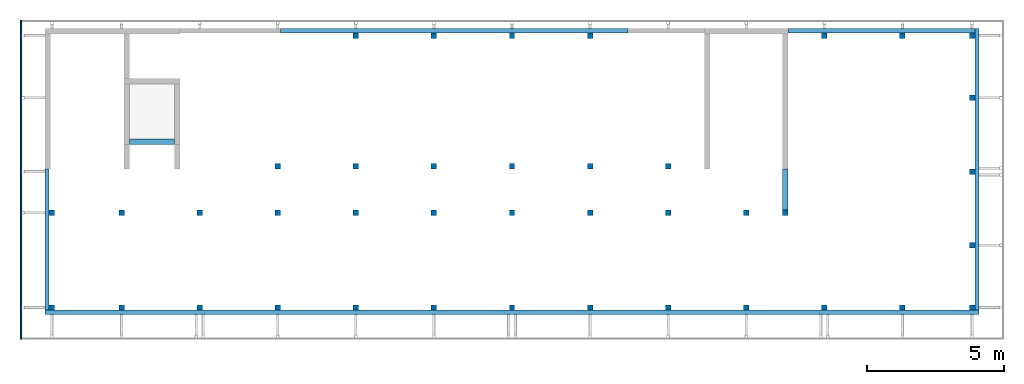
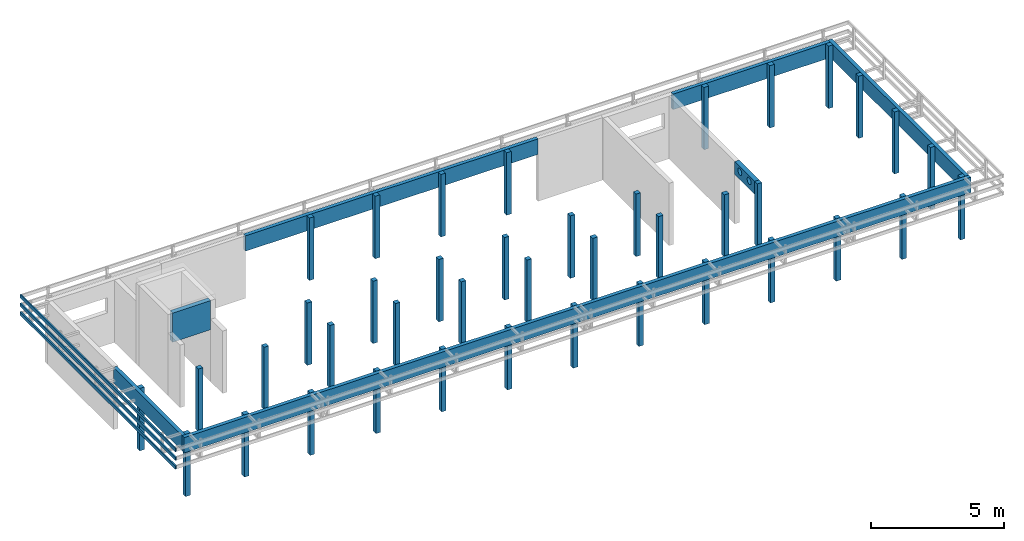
# One storey, part 1 of 42: 40 columns, 7 beams, 3 members, 2 openings.
"""IFC4 building model written with IfcOpenShell, lengths in metres."""

import ifcopenshell
import ifcopenshell.guid

model = None  # the IFC model being written
_history = None  # IfcOwnerHistory: only IFC2X3 demands one
_inside = {}  # id of a spatial element -> (the spatial element, [elements in it])
_under = {}  # id of a project, library or spatial element -> (it, [spatial elements below it])
_declared = {}  # id of a project -> (the project, [libraries it declares])
_typed = {}  # id of a type object -> (the type object, [elements of that type])
_made_of = {}  # id of a material, layer set ... -> (it, [elements and type objects made of it])


def new_model(schema):
    """Start an empty IFC model of exactly this schema.

    Asked for "IFC4X3", IfcOpenShell would pick the latest addendum, in which some entities
    have other attributes; the version numbers below select the first issue.
    IFC2X3 requires an IfcOwnerHistory on every rooted entity: one is made here for all.
    """
    global model, _history
    if schema == "IFC4X3":
        model = ifcopenshell.file(schema_version=(4, 3, 0, 0))
    else:
        model = ifcopenshell.file(schema=schema)
    _inside.clear()
    _under.clear()
    _declared.clear()
    _typed.clear()
    _made_of.clear()
    _history = None
    if model.schema == "IFC2X3":
        org = make("IfcOrganization", Name="unknown")
        user = make(
            "IfcPersonAndOrganization",
            ThePerson=make("IfcPerson", FamilyName="unknown"),
            TheOrganization=org,
        )
        app = make(
            "IfcApplication",
            ApplicationDeveloper=org,
            Version="unknown",
            ApplicationFullName="unknown",
            ApplicationIdentifier="unknown",
        )
        _history = make(
            "IfcOwnerHistory",
            OwningUser=user,
            OwningApplication=app,
            ChangeAction="ADDED",
            CreationDate=0,
        )
    return model


def make(cls, **values):
    """One entity of the class cls with the attributes given. An attribute that is None is left unset."""
    return model.create_entity(
        cls, **{name: value for name, value in values.items() if value is not None}
    )


def entity(cls, *values):
    """Any entity or typed value of the class cls, its attributes in the order of the schema. None: left unset."""
    e = model.create_entity(cls)
    for i, value in enumerate(values):
        if value is not None:
            e[i] = value
    return e


def rooted(cls, **values):
    """An entity with a GlobalId (a new one), such as an element, a storey or a relation."""
    return make(cls, GlobalId=ifcopenshell.guid.new(), OwnerHistory=_history, **values)


def si_unit(unit_type, name, prefix=None):
    """IfcSIUnit, for example si_unit("LENGTHUNIT", "METRE", prefix="MILLI")."""
    return make("IfcSIUnit", UnitType=unit_type, Prefix=prefix, Name=name)


def converted_unit(unit_type, name, factor, base, dimensions=None, offset=None):
    """IfcConversionBasedUnit, such as the inch: factor (a typed value) times the base unit."""
    return make(
        "IfcConversionBasedUnit"
        if offset is None
        else "IfcConversionBasedUnitWithOffset",
        ConversionOffset=offset,
        Dimensions=None
        if dimensions is None
        else entity("IfcDimensionalExponents", *dimensions),
        UnitType=unit_type,
        Name=name,
        ConversionFactor=make(
            "IfcMeasureWithUnit", ValueComponent=factor, UnitComponent=base
        ),
    )


def derived_unit(unit_type, elements):
    """IfcDerivedUnit: a product of units, each with its exponent."""
    return make(
        "IfcDerivedUnit",
        Elements=[
            make("IfcDerivedUnitElement", Unit=unit, Exponent=power)
            for unit, power in elements
        ],
        UnitType=unit_type,
    )


def assignment(units):
    """IfcUnitAssignment: the units of a project."""
    return None if units is None else make("IfcUnitAssignment", Units=units)


def point(xyz):
    """IfcCartesianPoint."""
    return None if xyz is None else make("IfcCartesianPoint", Coordinates=xyz)


def direction(xyz):
    """IfcDirection."""
    return None if xyz is None else make("IfcDirection", DirectionRatios=xyz)


def frame(location, z_axis=None, x_axis=None):
    """IfcAxis2Placement3D, a coordinate frame: its origin and axes. An axis left out is left unset."""
    return make(
        "IfcAxis2Placement3D",
        Location=point(location),
        Axis=direction(z_axis),
        RefDirection=direction(x_axis),
    )


def frame_2d(location, x_axis=None):
    """IfcAxis2Placement2D, a coordinate frame in the plane: its origin and x axis."""
    return make(
        "IfcAxis2Placement2D", Location=point(location), RefDirection=direction(x_axis)
    )


def origin():
    """The frame at (0, 0, 0) with its axes left unset."""
    return frame((0.0, 0.0, 0.0))


def origin_with_axes():
    """The frame at (0, 0, 0) with the z axis (0, 0, 1) and the x axis (1, 0, 0) written out."""
    return frame((0.0, 0.0, 0.0), z_axis=(0.0, 0.0, 1.0), x_axis=(1.0, 0.0, 0.0))


def place(relative_to, where):
    """IfcLocalPlacement: puts the frame where relative to a parent placement (None: the world)."""
    return make(
        "IfcLocalPlacement", PlacementRelTo=relative_to, RelativePlacement=where
    )


def context(
    kind, dimensions, precision=None, world=None, true_north=None, identifier=None
):
    """IfcGeometricRepresentationContext, for example the 3D "Model" context."""
    return make(
        "IfcGeometricRepresentationContext",
        ContextIdentifier=identifier,
        ContextType=kind,
        CoordinateSpaceDimension=dimensions,
        Precision=precision,
        WorldCoordinateSystem=world,
        TrueNorth=true_north,
    )


def subcontext(parent, identifier, kind, view, scale=None):
    """IfcGeometricRepresentationSubContext, for example "Body" below "Model"."""
    return make(
        "IfcGeometricRepresentationSubContext",
        ContextIdentifier=identifier,
        ContextType=kind,
        ParentContext=parent,
        TargetScale=scale,
        TargetView=view,
    )


def project(units=None, contexts=None):
    """IfcProject with its units and contexts."""
    return rooted(
        "IfcProject",
        Name="project",
        RepresentationContexts=contexts,
        UnitsInContext=assignment(units),
    )


def spatial(cls, under=None, at=None, **own):
    """A site, building, storey or space (cls), placed at a placement, below another one or the project."""
    s = rooted(cls, ObjectPlacement=at, **own)
    if under is not None:
        _under.setdefault(under.id(), (under, []))[1].append(s)
    return s


def polyline(points):
    """IfcPolyline through the points."""
    return make("IfcPolyline", Points=[point(p) for p in points])


def profile(cls, at=None, kind="AREA", **sizes):
    """A parametric profile (cls). Its sizes go by their IFC names, for example OverallWidth=200.0."""
    return make(cls, ProfileType=kind, Position=at, **sizes)


def rectangle(**sizes):
    """IfcRectangleProfileDef."""
    return profile("IfcRectangleProfileDef", **sizes)


def outline(outer, holes=None, kind="AREA"):
    """IfcArbitraryClosedProfileDef: a profile drawn as a closed curve; with holes, ...WithVoids."""
    if holes is None:
        return make("IfcArbitraryClosedProfileDef", ProfileType=kind, OuterCurve=outer)
    return make(
        "IfcArbitraryProfileDefWithVoids",
        ProfileType=kind,
        OuterCurve=outer,
        InnerCurves=holes,
    )


def extrude(swept, where, along, depth):
    """IfcExtrudedAreaSolid: the profile swept, set in the frame where, extruded along a direction by depth."""
    return make(
        "IfcExtrudedAreaSolid",
        SweptArea=swept,
        Position=where,
        ExtrudedDirection=direction(along),
        Depth=depth,
    )


def faces_of(points, faces, orient=None, outer=None):
    """IfcFace entities. A face is a list of loops; a loop is a list of indices into points, from 0.

    orient and outer hold one flag for each loop. By default every Orientation is true, the
    first loop of a face is its IfcFaceOuterBound and the others are IfcFaceBound.
    """
    made = []
    for i, loops in enumerate(faces):
        bounds = []
        for j, loop in enumerate(loops):
            is_outer = j == 0 if outer is None else outer[i][j]
            bounds.append(
                make(
                    "IfcFaceOuterBound" if is_outer else "IfcFaceBound",
                    Bound=make("IfcPolyLoop", Polygon=[points[k] for k in loop]),
                    Orientation=True if orient is None else orient[i][j],
                )
            )
        made.append(make("IfcFace", Bounds=bounds))
    return made


def faceted_brep(points, faces, orient=None, outer=None, voids=None):
    """IfcFacetedBrep: a solid bounded by flat faces; with voids (closed shells), ...WithVoids."""
    shared = [point(p) for p in points]
    hull = make("IfcClosedShell", CfsFaces=faces_of(shared, faces, orient, outer))
    if voids is None:
        return make("IfcFacetedBrep", Outer=hull)
    return make(
        "IfcFacetedBrepWithVoids",
        Outer=hull,
        Voids=[
            make(cls, CfsFaces=faces_of(shared, fs, o, b)) for cls, fs, o, b in voids
        ],
    )


def shape(context_of_items, identifier, shape_type, items):
    """IfcShapeRepresentation: the items that make up one representation, for example the "Body"."""
    return make(
        "IfcShapeRepresentation",
        ContextOfItems=context_of_items,
        RepresentationIdentifier=identifier,
        RepresentationType=shape_type,
        Items=items,
    )


def material(Name=None, Category=None):
    """IfcMaterial."""
    return make("IfcMaterial", Name=Name, Category=Category)


def made_of(thing, what):
    """Note that an element or type object is made of a material, layer set ...; save() writes the relation."""
    if what is not None:
        _made_of.setdefault(what.id(), (what, []))[1].append(thing)
    return thing


def element(
    cls,
    number,
    at=None,
    inside=None,
    cuts=None,
    type_object=None,
    material=None,
    context=None,
    identifier="Body",
    shape_type=None,
    held_by="IfcProductDefinitionShape",
    body=None,
    shapes=None,
    **own,
):
    """One element of the class cls, such as IfcWall. Its Tag is "e" and its number.

    at: its placement. inside: the storey or other place that contains it. cuts: it is an
    opening in that element (IfcRelVoidsElement). A single representation is given by context,
    identifier, shape_type and body (its items); several are given by shapes. held_by: the class
    of the entity that holds the representations. save() writes the other relations.
    """
    e = rooted(cls, Tag="e%d" % number, ObjectPlacement=at, **own)
    if body is not None:
        shapes = [shape(context, identifier, shape_type, body)]
    if shapes is not None:
        e.Representation = make(held_by, Representations=shapes)
    if inside is not None:
        _inside.setdefault(inside.id(), (inside, []))[1].append(e)
    if cuts is not None:
        rooted(
            "IfcRelVoidsElement", RelatingBuildingElement=cuts, RelatedOpeningElement=e
        )
    if type_object is not None:
        _typed.setdefault(type_object.id(), (type_object, []))[1].append(e)
    return made_of(e, material)


def aggregate(whole, parts):
    """IfcRelAggregates: a whole, such as a stair, and the parts it consists of."""
    return rooted("IfcRelAggregates", RelatingObject=whole, RelatedObjects=parts)


def save(model, path):
    """Write the relations noted so far, then the file.

    IfcRelAggregates (storeys below a building ...), IfcRelContainedInSpatialStructure (elements
    in a storey), IfcRelDefinesByType, IfcRelAssociatesMaterial and IfcRelDeclares: one each for
    every whole, place, type object, material and project.
    """
    for whole, parts in _under.values():
        aggregate(whole, parts)
    for where, things in _inside.values():
        rooted(
            "IfcRelContainedInSpatialStructure",
            RelatedElements=things,
            RelatingStructure=where,
        )
    for kind, things in _typed.values():
        rooted("IfcRelDefinesByType", RelatedObjects=things, RelatingType=kind)
    for what, things in _made_of.values():
        rooted("IfcRelAssociatesMaterial", RelatedObjects=things, RelatingMaterial=what)
    for by, libraries in _declared.values():
        rooted("IfcRelDeclares", RelatingContext=by, RelatedDefinitions=libraries)
    model.write(path)


model = new_model("IFC4")

# Units and contexts
model_context = context("Model", 3, precision=1e-05, world=origin())
plan_context = context("Plan", 2, precision=1e-05, world=origin())
body_context = subcontext(model_context, "Body", "Model", "MODEL_VIEW")
ifc_project = project(units=[si_unit("LENGTHUNIT", "METRE"), si_unit("AREAUNIT", "SQUARE_METRE"), si_unit("VOLUMEUNIT", "CUBIC_METRE"), si_unit("MASSUNIT", "GRAM", prefix="KILO"), converted_unit("PLANEANGLEUNIT", "DEGREE", entity("IfcPlaneAngleMeasure", 0.0174532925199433), si_unit("PLANEANGLEUNIT", "RADIAN"), dimensions=[0, 0, 0, 0, 0, 0, 0]), derived_unit("THERMALTRANSMITTANCEUNIT", [(si_unit("POWERUNIT", "WATT"), 1), (si_unit("THERMODYNAMICTEMPERATUREUNIT", "KELVIN"), -1), (si_unit("LENGTHUNIT", "METRE"), -2)]), derived_unit("VOLUMETRICFLOWRATEUNIT", [(si_unit("LENGTHUNIT", "METRE"), 3), (converted_unit("TIMEUNIT", "hour", entity("IfcTimeMeasure", 3600.0), si_unit("TIMEUNIT", "SECOND"), dimensions=[0, 0, 1, 0, 0, 0, 0]), -1), (si_unit("LENGTHUNIT", "METRE"), -1)])], contexts=[model_context, plan_context])

# Site, building, storey
site_placement = place(None, origin())
site = spatial("IfcSite", under=ifc_project, at=site_placement, Name="Site", CompositionType="ELEMENT")
building_placement = place(site_placement, origin())
building = spatial("IfcBuilding", under=site, at=building_placement, Name="Admin", CompositionType="ELEMENT")
storey_placement = place(building_placement, frame((0.0, 0.0, 6.61)))
storey = spatial("IfcBuildingStorey", under=building, at=storey_placement, Name="02-Etage2", CompositionType="ELEMENT", Elevation=6.61)

# Columns
ifc_material_1 = material(Name="C30/37")
column_1_placement = place(storey_placement, frame((51.01980059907, 15.499449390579, 0.0)))
element("IfcColumn", 1, at=column_1_placement, inside=storey, material=ifc_material_1, Name="C BA 2.01", PredefinedType="COLUMN", context=body_context, shape_type="SweptSolid", body=[
    extrude(rectangle(XDim=0.2, YDim=0.2, at=frame_2d((0.1, 0.1), x_axis=(1.0, 0.0))), origin_with_axes(), (0.0, 0.0, 1.0), 2.87),
])
ifc_material_2 = material(Name="GL24h")
column_2_placement = place(storey_placement, frame((49.5898001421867, 15.499449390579, 0.0)))
element("IfcColumn", 2, at=column_2_placement, inside=storey, material=ifc_material_2, Name="Colonne bois R+2", PredefinedType="COLUMN", context=body_context, shape_type="SweptSolid", body=[
    extrude(rectangle(XDim=0.200000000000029, YDim=0.2, at=frame_2d((0.100000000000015, 0.1), x_axis=(1.0, 0.0))), origin_with_axes(), (0.0, 0.0, 1.0), 2.87),
])
ifc_material_3 = material(Name="GL24h")
column_3_placement = place(storey_placement, frame((38.1498001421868, 17.199449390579, 0.0)))
element("IfcColumn", 3, at=column_3_placement, inside=storey, material=ifc_material_3, Name="Colonne bois R+2", PredefinedType="COLUMN", context=body_context, shape_type="SweptSolid", body=[
    extrude(rectangle(XDim=0.200000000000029, YDim=0.2, at=frame_2d((0.100000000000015, 0.1), x_axis=(1.0, 0.0))), origin_with_axes(), (0.0, 0.0, 1.0), 2.87),
])
ifc_material_4 = material(Name="GL24h")
column_4_placement = place(storey_placement, frame((46.7298001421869, 17.199449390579, 0.0)))
element("IfcColumn", 4, at=column_4_placement, inside=storey, material=ifc_material_4, Name="Colonne bois R+2", PredefinedType="COLUMN", context=body_context, shape_type="SweptSolid", body=[
    extrude(rectangle(XDim=0.200000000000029, YDim=0.2, at=frame_2d((0.100000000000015, 0.1), x_axis=(1.0, 0.0))), origin_with_axes(), (0.0, 0.0, 1.0), 2.87),
])
ifc_material_5 = material(Name="GL24h")
column_5_placement = place(storey_placement, frame((35.2898001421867, 17.199449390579, 0.0)))
element("IfcColumn", 5, at=column_5_placement, inside=storey, material=ifc_material_5, Name="Colonne bois R+2", PredefinedType="COLUMN", context=body_context, shape_type="SweptSolid", body=[
    extrude(rectangle(XDim=0.200000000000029, YDim=0.2, at=frame_2d((0.100000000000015, 0.1), x_axis=(1.0, 0.0))), origin_with_axes(), (0.0, 0.0, 1.0), 2.87),
])
ifc_material_6 = material(Name="GL24h")
column_6_placement = place(storey_placement, frame((43.8698001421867, 15.499449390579, 0.0)))
element("IfcColumn", 6, at=column_6_placement, inside=storey, material=ifc_material_6, Name="Colonne bois R+2", PredefinedType="COLUMN", context=body_context, shape_type="SweptSolid", body=[
    extrude(rectangle(XDim=0.200000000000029, YDim=0.2, at=frame_2d((0.100000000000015, 0.1), x_axis=(1.0, 0.0))), origin_with_axes(), (0.0, 0.0, 1.0), 2.87),
])
ifc_material_7 = material(Name="GL24h")
column_7_placement = place(storey_placement, frame((41.0098001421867, 15.499449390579, 0.0)))
element("IfcColumn", 7, at=column_7_placement, inside=storey, material=ifc_material_7, Name="Colonne bois R+2", PredefinedType="COLUMN", context=body_context, shape_type="SweptSolid", body=[
    extrude(rectangle(XDim=0.200000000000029, YDim=0.2, at=frame_2d((0.100000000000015, 0.1), x_axis=(1.0, 0.0))), origin_with_axes(), (0.0, 0.0, 1.0), 2.87),
])
ifc_material_8 = material(Name="GL24h")
column_8_placement = place(storey_placement, frame((46.7298001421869, 15.499449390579, 0.0)))
element("IfcColumn", 8, at=column_8_placement, inside=storey, material=ifc_material_8, Name="Colonne bois R+2", PredefinedType="COLUMN", context=body_context, shape_type="SweptSolid", body=[
    extrude(rectangle(XDim=0.200000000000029, YDim=0.2, at=frame_2d((0.100000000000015, 0.1), x_axis=(1.0, 0.0))), origin_with_axes(), (0.0, 0.0, 1.0), 2.87),
])
ifc_material_9 = material(Name="GL24h")
column_9_placement = place(storey_placement, frame((38.1498001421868, 15.499449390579, 0.0)))
element("IfcColumn", 9, at=column_9_placement, inside=storey, material=ifc_material_9, Name="Colonne bois R+2", PredefinedType="COLUMN", context=body_context, shape_type="SweptSolid", body=[
    extrude(rectangle(XDim=0.200000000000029, YDim=0.2, at=frame_2d((0.100000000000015, 0.1), x_axis=(1.0, 0.0))), origin_with_axes(), (0.0, 0.0, 1.0), 2.87),
])
ifc_material_10 = material(Name="GL24h")
column_10_placement = place(storey_placement, frame((32.4298001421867, 15.499449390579, 0.0)))
element("IfcColumn", 10, at=column_10_placement, inside=storey, material=ifc_material_10, Name="Colonne bois R+2", PredefinedType="COLUMN", context=body_context, shape_type="SweptSolid", body=[
    extrude(rectangle(XDim=0.200000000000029, YDim=0.2, at=frame_2d((0.100000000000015, 0.1), x_axis=(1.0, 0.0))), origin_with_axes(), (0.0, 0.0, 1.0), 2.87),
])
ifc_material_11 = material(Name="GL24h")
column_11_placement = place(storey_placement, frame((35.2898001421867, 15.499449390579, 0.0)))
element("IfcColumn", 11, at=column_11_placement, inside=storey, material=ifc_material_11, Name="Colonne bois R+2", PredefinedType="COLUMN", context=body_context, shape_type="SweptSolid", body=[
    extrude(rectangle(XDim=0.200000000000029, YDim=0.2, at=frame_2d((0.100000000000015, 0.1), x_axis=(1.0, 0.0))), origin_with_axes(), (0.0, 0.0, 1.0), 2.87),
])
ifc_material_12 = material(Name="GL24h")
column_12_placement = place(storey_placement, frame((29.5698001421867, 15.499449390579, 0.0)))
element("IfcColumn", 12, at=column_12_placement, inside=storey, material=ifc_material_12, Name="Colonne bois R+2", PredefinedType="COLUMN", context=body_context, shape_type="SweptSolid", body=[
    extrude(rectangle(XDim=0.200000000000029, YDim=0.2, at=frame_2d((0.100000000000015, 0.1), x_axis=(1.0, 0.0))), origin_with_axes(), (0.0, 0.0, 1.0), 2.87),
])
ifc_material_13 = material(Name="GL24h")
column_13_placement = place(storey_placement, frame((26.7098005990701, 15.499449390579, 0.0)))
element("IfcColumn", 13, at=column_13_placement, inside=storey, material=ifc_material_13, Name="Colonne bois R+2", PredefinedType="COLUMN", context=body_context, shape_type="SweptSolid", body=[
    extrude(rectangle(XDim=0.200000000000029, YDim=0.2, at=frame_2d((0.100000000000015, 0.1), x_axis=(1.0, 0.0))), origin_with_axes(), (0.0, 0.0, 1.0), 2.87),
])
ifc_material_14 = material(Name="GL24h")
column_14_placement = place(storey_placement, frame((41.0098001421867, 17.199449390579, 0.0)))
element("IfcColumn", 14, at=column_14_placement, inside=storey, material=ifc_material_14, Name="Colonne bois R+2", PredefinedType="COLUMN", context=body_context, shape_type="SweptSolid", body=[
    extrude(rectangle(XDim=0.200000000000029, YDim=0.2, at=frame_2d((0.100000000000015, 0.1), x_axis=(1.0, 0.0))), origin_with_axes(), (0.0, 0.0, 1.0), 2.87),
])
ifc_material_15 = material(Name="GL24h")
column_15_placement = place(storey_placement, frame((43.8698001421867, 17.199449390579, 0.0)))
element("IfcColumn", 15, at=column_15_placement, inside=storey, material=ifc_material_15, Name="Colonne bois R+2", PredefinedType="COLUMN", context=body_context, shape_type="SweptSolid", body=[
    extrude(rectangle(XDim=0.200000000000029, YDim=0.2, at=frame_2d((0.100000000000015, 0.1), x_axis=(1.0, 0.0))), origin_with_axes(), (0.0, 0.0, 1.0), 2.87),
])
ifc_material_16 = material(Name="GL24h")
column_16_placement = place(storey_placement, frame((32.4298001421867, 17.199449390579, 0.0)))
element("IfcColumn", 16, at=column_16_placement, inside=storey, material=ifc_material_16, Name="Colonne bois R+2", PredefinedType="COLUMN", context=body_context, shape_type="SweptSolid", body=[
    extrude(rectangle(XDim=0.200000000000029, YDim=0.2, at=frame_2d((0.100000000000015, 0.1), x_axis=(1.0, 0.0))), origin_with_axes(), (0.0, 0.0, 1.0), 2.87),
])
ifc_material_17 = material(Name="GL24h")
column_17_placement = place(storey_placement, frame((24.1598010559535, 12.029449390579, 0.0)))
element("IfcColumn", 17, at=column_17_placement, inside=storey, material=ifc_material_17, Name="Colonne bois R+2", PredefinedType="COLUMN", context=body_context, shape_type="SweptSolid", body=[
    extrude(rectangle(XDim=0.200000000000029, YDim=0.2, at=frame_2d((0.100000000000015, 0.1), x_axis=(1.0, 0.0))), origin_with_axes(), (0.0, 0.0, 1.0), 2.87),
])
ifc_material_18 = material(Name="GL24h")
column_18_placement = place(storey_placement, frame((55.3098001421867, 12.029449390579, 0.0)))
element("IfcColumn", 18, at=column_18_placement, inside=storey, material=ifc_material_18, Name="Colonne bois R+2", PredefinedType="COLUMN", context=body_context, shape_type="SweptSolid", body=[
    extrude(rectangle(XDim=0.200000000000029, YDim=0.2, at=frame_2d((0.100000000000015, 0.1), x_axis=(1.0, 0.0))), origin_with_axes(), (0.0, 0.0, 1.0), 2.87),
])
ifc_material_19 = material(Name="GL24h")
column_19_placement = place(storey_placement, frame((52.4498001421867, 12.029449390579, 0.0)))
element("IfcColumn", 19, at=column_19_placement, inside=storey, material=ifc_material_19, Name="Colonne bois R+2", PredefinedType="COLUMN", context=body_context, shape_type="SweptSolid", body=[
    extrude(rectangle(XDim=0.200000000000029, YDim=0.2, at=frame_2d((0.100000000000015, 0.1), x_axis=(1.0, 0.0))), origin_with_axes(), (0.0, 0.0, 1.0), 2.87),
])
ifc_material_20 = material(Name="GL24h")
column_20_placement = place(storey_placement, frame((26.7098010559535, 12.029449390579, 0.0)))
element("IfcColumn", 20, at=column_20_placement, inside=storey, material=ifc_material_20, Name="Colonne bois R+2", PredefinedType="COLUMN", context=body_context, shape_type="SweptSolid", body=[
    extrude(rectangle(XDim=0.200000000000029, YDim=0.2, at=frame_2d((0.100000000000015, 0.1), x_axis=(1.0, 0.0))), origin_with_axes(), (0.0, 0.0, 1.0), 2.87),
])
ifc_material_21 = material(Name="GL24h")
column_21_placement = place(storey_placement, frame((29.5698005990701, 12.029449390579, 0.0)))
element("IfcColumn", 21, at=column_21_placement, inside=storey, material=ifc_material_21, Name="Colonne bois R+2", PredefinedType="COLUMN", context=body_context, shape_type="SweptSolid", body=[
    extrude(rectangle(XDim=0.200000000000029, YDim=0.2, at=frame_2d((0.100000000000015, 0.1), x_axis=(1.0, 0.0))), origin_with_axes(), (0.0, 0.0, 1.0), 2.87),
])
ifc_material_22 = material(Name="GL24h")
column_22_placement = place(storey_placement, frame((35.2898005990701, 12.029449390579, 0.0)))
element("IfcColumn", 22, at=column_22_placement, inside=storey, material=ifc_material_22, Name="Colonne bois R+2", PredefinedType="COLUMN", context=body_context, shape_type="SweptSolid", body=[
    extrude(rectangle(XDim=0.200000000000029, YDim=0.2, at=frame_2d((0.100000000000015, 0.1), x_axis=(1.0, 0.0))), origin_with_axes(), (0.0, 0.0, 1.0), 2.87),
])
ifc_material_23 = material(Name="GL24h")
column_23_placement = place(storey_placement, frame((32.4298005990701, 12.029449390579, 0.0)))
element("IfcColumn", 23, at=column_23_placement, inside=storey, material=ifc_material_23, Name="Colonne bois R+2", PredefinedType="COLUMN", context=body_context, shape_type="SweptSolid", body=[
    extrude(rectangle(XDim=0.200000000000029, YDim=0.2, at=frame_2d((0.100000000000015, 0.1), x_axis=(1.0, 0.0))), origin_with_axes(), (0.0, 0.0, 1.0), 2.87),
])
ifc_material_24 = material(Name="GL24h")
column_24_placement = place(storey_placement, frame((38.1498005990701, 12.029449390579, 0.0)))
element("IfcColumn", 24, at=column_24_placement, inside=storey, material=ifc_material_24, Name="Colonne bois R+2", PredefinedType="COLUMN", context=body_context, shape_type="SweptSolid", body=[
    extrude(rectangle(XDim=0.200000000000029, YDim=0.2, at=frame_2d((0.100000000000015, 0.1), x_axis=(1.0, 0.0))), origin_with_axes(), (0.0, 0.0, 1.0), 2.87),
])
ifc_material_25 = material(Name="GL24h")
column_25_placement = place(storey_placement, frame((46.7298005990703, 12.029449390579, 0.0)))
element("IfcColumn", 25, at=column_25_placement, inside=storey, material=ifc_material_25, Name="Colonne bois R+2", PredefinedType="COLUMN", context=body_context, shape_type="SweptSolid", body=[
    extrude(rectangle(XDim=0.200000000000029, YDim=0.2, at=frame_2d((0.100000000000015, 0.1), x_axis=(1.0, 0.0))), origin_with_axes(), (0.0, 0.0, 1.0), 2.87),
])
ifc_material_26 = material(Name="GL24h")
column_26_placement = place(storey_placement, frame((43.8698005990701, 12.029449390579, 0.0)))
element("IfcColumn", 26, at=column_26_placement, inside=storey, material=ifc_material_26, Name="Colonne bois R+2", PredefinedType="COLUMN", context=body_context, shape_type="SweptSolid", body=[
    extrude(rectangle(XDim=0.200000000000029, YDim=0.2, at=frame_2d((0.100000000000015, 0.1), x_axis=(1.0, 0.0))), origin_with_axes(), (0.0, 0.0, 1.0), 2.87),
])
ifc_material_27 = material(Name="GL24h")
column_27_placement = place(storey_placement, frame((41.0098005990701, 12.029449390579, 0.0)))
element("IfcColumn", 27, at=column_27_placement, inside=storey, material=ifc_material_27, Name="Colonne bois R+2", PredefinedType="COLUMN", context=body_context, shape_type="SweptSolid", body=[
    extrude(rectangle(XDim=0.200000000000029, YDim=0.2, at=frame_2d((0.100000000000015, 0.1), x_axis=(1.0, 0.0))), origin_with_axes(), (0.0, 0.0, 1.0), 2.87),
])
ifc_material_28 = material(Name="GL24h")
column_28_placement = place(storey_placement, frame((49.5898005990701, 12.029449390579, 0.0)))
element("IfcColumn", 28, at=column_28_placement, inside=storey, material=ifc_material_28, Name="Colonne bois R+2", PredefinedType="COLUMN", context=body_context, shape_type="SweptSolid", body=[
    extrude(rectangle(XDim=0.200000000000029, YDim=0.2, at=frame_2d((0.100000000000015, 0.1), x_axis=(1.0, 0.0))), origin_with_axes(), (0.0, 0.0, 1.0), 2.87),
])
ifc_material_29 = material(Name="GL24h")
column_29_placement = place(storey_placement, frame((57.8598001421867, 14.309449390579, 0.016)))
element("IfcColumn", 29, at=column_29_placement, inside=storey, material=ifc_material_29, Name="Colonne bois R+2", PredefinedType="COLUMN", context=body_context, shape_type="SweptSolid", body=[
    extrude(rectangle(XDim=0.200000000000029, YDim=0.2, at=frame_2d((0.100000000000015, 0.1), x_axis=(1.0, 0.0))), origin_with_axes(), (0.0, 0.0, 1.0), 2.854),
])
ifc_material_30 = material(Name="GL24h")
column_30_placement = place(storey_placement, frame((57.8598001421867, 17.009449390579, 0.016)))
element("IfcColumn", 30, at=column_30_placement, inside=storey, material=ifc_material_30, Name="Colonne bois R+2", PredefinedType="COLUMN", context=body_context, shape_type="SweptSolid", body=[
    extrude(rectangle(XDim=0.200000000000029, YDim=0.2, at=frame_2d((0.100000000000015, 0.1), x_axis=(1.0, 0.0))), origin_with_axes(), (0.0, 0.0, 1.0), 2.854),
])
ifc_material_31 = material(Name="GL24h")
column_31_placement = place(storey_placement, frame((57.8598001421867, 19.709449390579, 0.016)))
element("IfcColumn", 31, at=column_31_placement, inside=storey, material=ifc_material_31, Name="Colonne bois R+2", PredefinedType="COLUMN", context=body_context, shape_type="SweptSolid", body=[
    extrude(rectangle(XDim=0.200000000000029, YDim=0.2, at=frame_2d((0.100000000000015, 0.1), x_axis=(1.0, 0.0))), origin_with_axes(), (0.0, 0.0, 1.0), 2.854),
])
ifc_material_32 = material(Name="GL24h")
column_32_placement = place(storey_placement, frame((57.8598001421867, 12.029449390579, 0.0)))
element("IfcColumn", 32, at=column_32_placement, inside=storey, material=ifc_material_32, Name="Colonne bois R+2", PredefinedType="COLUMN", context=body_context, shape_type="SweptSolid", body=[
    extrude(rectangle(XDim=0.200000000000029, YDim=0.2, at=frame_2d((0.100000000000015, 0.1), x_axis=(1.0, 0.0))), origin_with_axes(), (0.0, 0.0, 1.0), 2.87),
])
ifc_material_33 = material(Name="GL24h")
column_33_placement = place(storey_placement, frame((57.8597996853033, 21.989449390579, 0.0)))
element("IfcColumn", 33, at=column_33_placement, inside=storey, material=ifc_material_33, Name="Colonne bois R+2", PredefinedType="COLUMN", context=body_context, shape_type="SweptSolid", body=[
    extrude(rectangle(XDim=0.200000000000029, YDim=0.2, at=frame_2d((0.100000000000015, 0.1), x_axis=(1.0, 0.0))), origin_with_axes(), (0.0, 0.0, 1.0), 2.87),
])
ifc_material_34 = material(Name="GL24h")
column_34_placement = place(storey_placement, frame((55.3097996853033, 21.989449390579, 0.0)))
element("IfcColumn", 34, at=column_34_placement, inside=storey, material=ifc_material_34, Name="Colonne bois R+2", PredefinedType="COLUMN", context=body_context, shape_type="SweptSolid", body=[
    extrude(rectangle(XDim=0.200000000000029, YDim=0.2, at=frame_2d((0.100000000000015, 0.1), x_axis=(1.0, 0.0))), origin_with_axes(), (0.0, 0.0, 1.0), 2.87),
])
ifc_material_35 = material(Name="GL24h")
column_35_placement = place(storey_placement, frame((52.4498001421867, 21.989449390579, 0.0)))
element("IfcColumn", 35, at=column_35_placement, inside=storey, material=ifc_material_35, Name="Colonne bois R+2", PredefinedType="COLUMN", context=body_context, shape_type="SweptSolid", body=[
    extrude(rectangle(XDim=0.200000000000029, YDim=0.2, at=frame_2d((0.100000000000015, 0.1), x_axis=(1.0, 0.0))), origin_with_axes(), (0.0, 0.0, 1.0), 2.87),
])
ifc_material_36 = material(Name="GL24h")
column_36_placement = place(storey_placement, frame((24.1598005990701, 15.499449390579, 0.0)))
element("IfcColumn", 36, at=column_36_placement, inside=storey, material=ifc_material_36, Name="Colonne bois R+2", PredefinedType="COLUMN", context=body_context, shape_type="SweptSolid", body=[
    extrude(rectangle(XDim=0.200000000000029, YDim=0.2, at=frame_2d((0.100000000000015, 0.1), x_axis=(1.0, 0.0))), origin_with_axes(), (0.0, 0.0, 1.0), 2.87),
])
ifc_material_37 = material(Name="GL24h")
column_37_placement = place(storey_placement, frame((35.2898001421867, 21.989449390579, 0.0)))
element("IfcColumn", 37, at=column_37_placement, inside=storey, material=ifc_material_37, Name="Colonne bois R+2", PredefinedType="COLUMN", context=body_context, shape_type="SweptSolid", body=[
    extrude(rectangle(XDim=0.200000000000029, YDim=0.2, at=frame_2d((0.100000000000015, 0.1), x_axis=(1.0, 0.0))), origin_with_axes(), (0.0, 0.0, 1.0), 2.87),
])
ifc_material_38 = material(Name="GL24h")
column_38_placement = place(storey_placement, frame((38.1498001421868, 21.989449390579, 0.0)))
element("IfcColumn", 38, at=column_38_placement, inside=storey, material=ifc_material_38, Name="Colonne bois R+2", PredefinedType="COLUMN", context=body_context, shape_type="SweptSolid", body=[
    extrude(rectangle(XDim=0.200000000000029, YDim=0.2, at=frame_2d((0.100000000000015, 0.1), x_axis=(1.0, 0.0))), origin_with_axes(), (0.0, 0.0, 1.0), 2.87),
])
ifc_material_39 = material(Name="GL24h")
column_39_placement = place(storey_placement, frame((41.0098001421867, 21.989449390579, 0.0)))
element("IfcColumn", 39, at=column_39_placement, inside=storey, material=ifc_material_39, Name="Colonne bois R+2", PredefinedType="COLUMN", context=body_context, shape_type="SweptSolid", body=[
    extrude(rectangle(XDim=0.200000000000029, YDim=0.2, at=frame_2d((0.100000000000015, 0.1), x_axis=(1.0, 0.0))), origin_with_axes(), (0.0, 0.0, 1.0), 2.87),
])
ifc_material_40 = material(Name="GL24h")
column_40_placement = place(storey_placement, frame((43.8698001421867, 21.989449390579, 0.0)))
element("IfcColumn", 40, at=column_40_placement, inside=storey, material=ifc_material_40, Name="Colonne bois R+2", PredefinedType="COLUMN", context=body_context, shape_type="SweptSolid", body=[
    extrude(rectangle(XDim=0.200000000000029, YDim=0.2, at=frame_2d((0.100000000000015, 0.1), x_axis=(1.0, 0.0))), origin_with_axes(), (0.0, 0.0, 1.0), 2.87),
])

# Beam, openings
ifc_material_41 = material(Name="C30/37")
beam_1_placement = place(storey_placement, frame((51.01980059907, 17.199449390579, 2.27), z_axis=(0.0, 0.0, 1.0), x_axis=(9.70127681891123e-15, -1.0, 0.0)))
beam_1 = element("IfcBeam", 41, at=beam_1_placement, inside=storey, material=ifc_material_41, Name="P BA 2.01", PredefinedType="NOTDEFINED", context=body_context, shape_type="SweptSolid", body=[
    extrude(rectangle(XDim=0.2, YDim=0.6, at=frame_2d((0.1, 0.3), x_axis=(1.0, 0.0))), frame((0.0, 0.0, 0.0), z_axis=(1.0, 0.0, 0.0), x_axis=(0.0, 1.0, 0.0)), (0.0, 0.0, 1.0), 1.5),
])
opening_1_placement = place(beam_1_placement, frame((0.233, -2.26039749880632e-15, 0.220000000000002), z_axis=(-8.5265128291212e-15, 1.0, 0.0), x_axis=(0.0, 0.0, 1.0)))
element("IfcOpeningElement", 42, at=opening_1_placement, cuts=beam_1, Name="Niche dans mur", ObjectType="Opening", context=body_context, shape_type="SweptSolid", body=[
    extrude(outline(polyline([(0.149999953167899, 0.0), (0.13432068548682, 0.000821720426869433), (0.118813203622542, 0.00327786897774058), (0.103647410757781, 0.00734153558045), (0.0889894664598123, 0.0129681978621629), (0.0749999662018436, 0.0200962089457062), (0.0618321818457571, 0.0286474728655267), (0.0496303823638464, 0.0385283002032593), (0.0385282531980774, 0.049630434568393), (0.0286474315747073, 0.0618322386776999), (0.0200961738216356, 0.0750000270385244), (0.0129681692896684, 0.088989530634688), (0.00734151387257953, 0.103647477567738), (0.00327785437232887, 0.118813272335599), (0.000821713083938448, 0.134320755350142), (0.0, 0.150000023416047), (0.000821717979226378, 0.165679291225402), (0.00327786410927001, 0.181186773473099), (0.00734152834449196, 0.196352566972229), (0.0129681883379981, 0.211010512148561), (0.0200961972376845, 0.22500001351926), (0.0286474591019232, 0.23816779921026), (0.0385282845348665, 0.250369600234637), (0.0496304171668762, 0.261471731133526), (0.0618322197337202, 0.271352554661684), (0.0750000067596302, 0.279903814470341), (0.0889895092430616, 0.287031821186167), (0.103647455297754, 0.292658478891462), (0.118813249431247, 0.296722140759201), (0.134320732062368, 0.299178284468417), (0.149999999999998, 0.3), (0.165679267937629, 0.299178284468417), (0.18118675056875, 0.296722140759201), (0.196352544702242, 0.292658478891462), (0.211010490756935, 0.287031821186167), (0.224999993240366, 0.279903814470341), (0.238167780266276, 0.271352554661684), (0.25036958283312, 0.261471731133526), (0.26147171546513, 0.250369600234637), (0.271352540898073, 0.23816779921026), (0.279903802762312, 0.22500001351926), (0.287031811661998, 0.211010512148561), (0.292658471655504, 0.196352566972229), (0.296722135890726, 0.181186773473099), (0.29917828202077, 0.165679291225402), (0.299999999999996, 0.150000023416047), (0.299178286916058, 0.134320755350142), (0.296722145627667, 0.118813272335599), (0.292658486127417, 0.103647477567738), (0.287031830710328, 0.088989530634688), (0.279903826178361, 0.0750000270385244), (0.271352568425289, 0.0618322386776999), (0.261471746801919, 0.049630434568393), (0.25036961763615, 0.0385283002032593), (0.238167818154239, 0.0286474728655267), (0.225000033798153, 0.0200962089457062), (0.211010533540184, 0.0129681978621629), (0.196352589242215, 0.00734153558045), (0.181186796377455, 0.00327786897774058), (0.165679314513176, 0.000821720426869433), (0.149999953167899, 0.0)])), origin_with_axes(), (0.0, 0.0, 1.0), 0.2),
])
opening_2_placement = place(beam_1_placement, frame((1.238, 0.200000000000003, 0.220000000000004), z_axis=(1.70530256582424e-14, -1.0, 0.0), x_axis=(0.0, 0.0, 1.0)))
element("IfcOpeningElement", 43, at=opening_2_placement, cuts=beam_1, Name="Niche dans mur", ObjectType="Opening", context=body_context, shape_type="SweptSolid", body=[
    extrude(outline(polyline([(0.149999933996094, 0.0), (0.134320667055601, 0.000821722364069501), (0.11881318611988, 0.00327787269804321), (0.103647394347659, 0.00734154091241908), (0.0889894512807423, 0.0129682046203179), (0.074999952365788, 0.0200962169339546), (0.0618321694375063, 0.0286474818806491), (0.0496303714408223, 0.0385283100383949), (0.0385282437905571, 0.0496304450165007), (0.028647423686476, 0.0618322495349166), (0.0200961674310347, 0.0750000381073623), (0.0129681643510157, 0.08898954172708), (0.00734151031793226, 0.103647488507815), (0.00327785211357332, 0.118813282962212), (0.000821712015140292, 0.134320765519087), (0.0, 0.150000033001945), (0.000821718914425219, 0.165679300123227), (0.00327786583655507, 0.181186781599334), (0.00734153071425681, 0.196352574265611), (0.0129681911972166, 0.211010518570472), (0.0200962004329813, 0.225000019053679), (0.0286474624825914, 0.238167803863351), (0.0385282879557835, 0.250369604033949), (0.0496304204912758, 0.261471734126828), (0.0618322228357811, 0.271352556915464), (0.0750000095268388, 0.27990381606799), (0.088989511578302, 0.287031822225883), (0.103647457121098, 0.292658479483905), (0.118813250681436, 0.296722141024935), (0.134320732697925, 0.299178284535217), (0.149999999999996, 0.3), (0.165679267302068, 0.299178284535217), (0.181186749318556, 0.296722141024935), (0.196352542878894, 0.292658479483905), (0.211010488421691, 0.287031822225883), (0.224999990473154, 0.27990381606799), (0.238167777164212, 0.271352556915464), (0.250369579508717, 0.261471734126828), (0.261471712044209, 0.250369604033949), (0.271352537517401, 0.238167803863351), (0.279903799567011, 0.225000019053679), (0.287031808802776, 0.211010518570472), (0.292658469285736, 0.196352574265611), (0.296722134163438, 0.181186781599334), (0.299178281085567, 0.165679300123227), (0.299999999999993, 0.150000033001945), (0.299178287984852, 0.134320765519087), (0.296722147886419, 0.118813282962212), (0.29265848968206, 0.103647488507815), (0.287031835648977, 0.08898954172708), (0.279903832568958, 0.0750000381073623), (0.271352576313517, 0.0618322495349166), (0.261471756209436, 0.0496304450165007), (0.25036962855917, 0.0385283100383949), (0.238167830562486, 0.0286474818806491), (0.225000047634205, 0.0200962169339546), (0.21101054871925, 0.0129682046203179), (0.196352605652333, 0.00734154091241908), (0.181186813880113, 0.00327787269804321), (0.165679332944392, 0.000821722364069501), (0.149999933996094, 0.0)])), origin_with_axes(), (0.0, 0.0, 1.0), 0.2),
])

# Beams
ifc_material_42 = material(Name="C30/37")
beam_2_placement = place(storey_placement, frame((28.7498290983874, 18.2994421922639, 2.39), z_axis=(0.0, 0.0, 1.0), x_axis=(-0.999999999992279, 3.92967778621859e-06, 0.0)))
element("IfcBeam", 44, at=beam_2_placement, inside=storey, material=ifc_material_42, Name="P BA 2.01", PredefinedType="NOTDEFINED", context=body_context, shape_type="SweptSolid", body=[
    extrude(rectangle(XDim=0.199999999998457, YDim=1.34, at=frame_2d((0.0999999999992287, 0.67), x_axis=(1.0, 0.0))), frame((0.0, 0.0, 0.0), z_axis=(1.0, 0.0, 0.0), x_axis=(0.0, 1.0, 0.0)), (0.0, 0.0, 1.0), 1.65000000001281),
])
ifc_material_43 = material(Name="CLT")
beam_3_placement = place(storey_placement, frame((24.1598010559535, 12.029449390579, 2.16), z_axis=(0.0, 0.0, 1.0), x_axis=(-8.83720276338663e-08, 0.999999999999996, 0.0)))
element("IfcBeam", 45, at=beam_3_placement, inside=storey, material=ifc_material_43, Name="Poutre CLT Axe 2.A R+2", PredefinedType="NOTDEFINED", context=body_context, shape_type="SweptSolid", body=[
    extrude(rectangle(XDim=0.16, YDim=0.71, at=frame_2d((0.08, 0.355), x_axis=(1.0, 0.0))), frame((0.0, 0.0, 0.0), z_axis=(1.0, 0.0, 0.0), x_axis=(0.0, 1.0, 0.0)), (0.0, 0.0, 1.0), 5.17000000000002),
])
ifc_material_44 = material(Name="CLT")
beam_4_placement = place(storey_placement, frame((23.9998010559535, 11.8694493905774, 2.16)))
element("IfcBeam", 46, at=beam_4_placement, inside=storey, material=ifc_material_44, Name="Poutre CLT Axe 2.2 R+2", PredefinedType="NOTDEFINED", context=body_context, shape_type="Brep", body=[
    faceted_brep([(34.2199990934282, 0.0, 0.0), (1.41395139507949e-08, 0.0, 0.0), (1.41395139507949e-08, 0.0, 0.71), (34.2199990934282, 0.0, 0.71), (0.0, 0.159999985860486, 0.0), (0.0, 0.159999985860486, 0.71), (34.2199990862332, 0.16, 0.0), (34.2199990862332, 0.16, 0.71)], [[[0, 1, 2, 3]], [[1, 4, 5, 2]], [[4, 6, 7, 5]], [[6, 0, 3, 7]], [[7, 3, 2, 5]], [[0, 6, 4, 1]]], orient=[[False], [False], [False], [False], [False], [False]]),
])
ifc_material_45 = material(Name="CLT")
beam_5_placement = place(storey_placement, frame((58.0597996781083, 22.349449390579, 2.16), z_axis=(0.0, 0.0, 1.0), x_axis=(4.49688374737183e-08, -0.999999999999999, 0.0)))
element("IfcBeam", 47, at=beam_5_placement, inside=storey, material=ifc_material_45, Name="Poutre CLT Axe 2.M R+2", PredefinedType="NOTDEFINED", context=body_context, shape_type="SweptSolid", body=[
    extrude(rectangle(XDim=0.16, YDim=0.71, at=frame_2d((0.08, 0.355), x_axis=(1.0, 0.0))), frame((0.0, 0.0, 0.0), z_axis=(1.0, 0.0, 0.0), x_axis=(0.0, 1.0, 0.0)), (0.0, 0.0, 1.0), 10.32),
])
ifc_material_46 = material(Name="CLT")
beam_6_placement = place(storey_placement, frame((51.21980059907, 22.189449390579, 2.16)))
element("IfcBeam", 48, at=beam_6_placement, inside=storey, material=ifc_material_46, Name="Poutre CLT Axe 2.6 R+2", PredefinedType="NOTDEFINED", context=body_context, shape_type="SweptSolid", body=[
    extrude(rectangle(XDim=0.16, YDim=0.71, at=frame_2d((0.08, 0.355), x_axis=(1.0, 0.0))), frame((0.0, 0.0, 0.0), z_axis=(1.0, 0.0, 0.0), x_axis=(0.0, 1.0, 0.0)), (0.0, 0.0, 1.0), 6.83999908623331),
])
ifc_material_47 = material(Name="CLT")
beam_7_placement = place(storey_placement, frame((32.6298001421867, 22.189449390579, 2.16)))
element("IfcBeam", 49, at=beam_7_placement, inside=storey, material=ifc_material_47, Name="Poutre CLT Axe 2.6 R+2", PredefinedType="NOTDEFINED", context=body_context, shape_type="SweptSolid", body=[
    extrude(rectangle(XDim=0.16, YDim=0.71, at=frame_2d((0.08, 0.355), x_axis=(1.0, 0.0))), frame((0.0, 0.0, 0.0), z_axis=(1.0, 0.0, 0.0), x_axis=(0.0, 1.0, 0.0)), (0.0, 0.0, 1.0), 12.7200004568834),
])

# Members
ifc_material_48 = material(Name="C24")
member_1_placement = place(storey_placement, frame((23.0898005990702, 10.9594493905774, 2.28)))
element("IfcMember", 50, at=member_1_placement, inside=storey, material=ifc_material_48, Name="Bandeau R+2", context=body_context, shape_type="Brep", body=[
    faceted_brep([(4.56883397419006e-07, 1.81898940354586e-15, 0.0), (0.0, 11.7, 0.0), (0.0, 11.7, 0.15), (4.56883397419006e-07, 1.81898940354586e-15, 0.15), (0.06, 11.7, 0.0), (0.06, 11.7, 0.15), (0.0600004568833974, 1.81898940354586e-15, 0.0), (0.0600004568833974, 1.81898940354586e-15, 0.15)], [[[0, 1, 2, 3]], [[1, 4, 5, 2]], [[4, 6, 7, 5]], [[6, 0, 3, 7]], [[7, 3, 2, 5]], [[0, 6, 4, 1]]], orient=[[False], [False], [False], [False], [False], [False]]),
])
ifc_material_49 = material(Name="C24")
member_2_placement = place(storey_placement, frame((23.0898005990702, 10.9594493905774, 3.08)))
element("IfcMember", 51, at=member_2_placement, inside=storey, material=ifc_material_49, Name="Bandeau R+2", context=body_context, shape_type="Brep", body=[
    faceted_brep([(4.56883397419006e-07, 1.81898940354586e-15, 0.0), (0.0, 11.7, 0.0), (0.0, 11.7, 0.15), (4.56883397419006e-07, 1.81898940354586e-15, 0.15), (0.06, 11.7, 0.0), (0.06, 11.7, 0.15), (0.0600004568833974, 1.81898940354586e-15, 0.0), (0.0600004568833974, 1.81898940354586e-15, 0.15)], [[[0, 1, 2, 3]], [[1, 4, 5, 2]], [[4, 6, 7, 5]], [[6, 0, 3, 7]], [[7, 3, 2, 5]], [[0, 6, 4, 1]]], orient=[[False], [False], [False], [False], [False], [False]]),
])
ifc_material_50 = material(Name="C24")
member_3_placement = place(storey_placement, frame((23.0898005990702, 10.9594493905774, 2.68)))
element("IfcMember", 52, at=member_3_placement, inside=storey, material=ifc_material_50, Name="Bandeau R+2", context=body_context, shape_type="Brep", body=[
    faceted_brep([(4.56883397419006e-07, 1.81898940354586e-15, 0.0), (0.0, 11.7, 0.0), (0.0, 11.7, 0.15), (4.56883397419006e-07, 1.81898940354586e-15, 0.15), (0.06, 11.7, 0.0), (0.06, 11.7, 0.15), (0.0600004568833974, 1.81898940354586e-15, 0.0), (0.0600004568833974, 1.81898940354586e-15, 0.15)], [[[0, 1, 2, 3]], [[1, 4, 5, 2]], [[4, 6, 7, 5]], [[6, 0, 3, 7]], [[7, 3, 2, 5]], [[0, 6, 4, 1]]], orient=[[False], [False], [False], [False], [False], [False]]),
])

save(model, "model.ifc")
